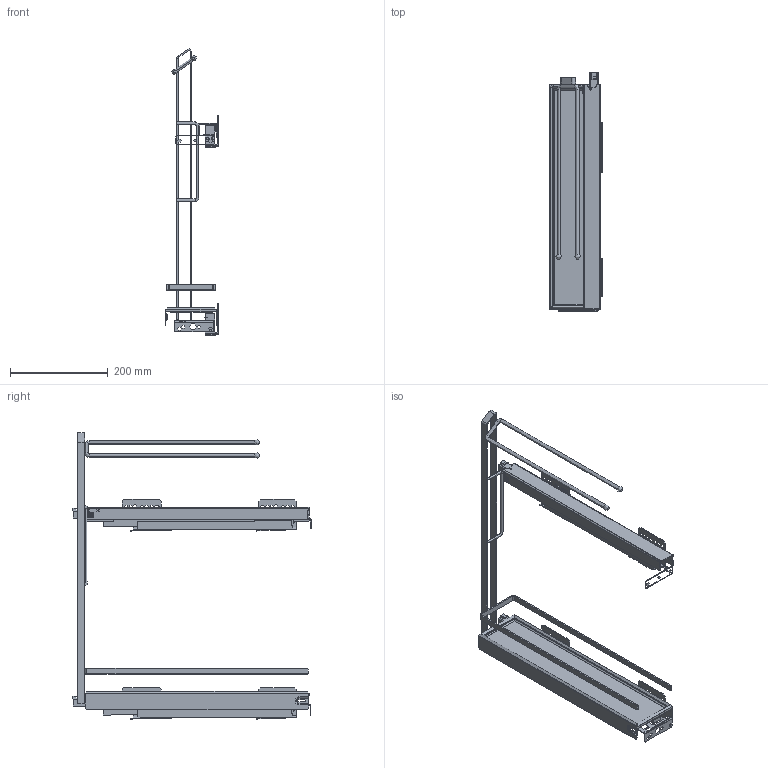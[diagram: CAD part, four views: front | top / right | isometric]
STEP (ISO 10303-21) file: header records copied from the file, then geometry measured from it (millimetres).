
FILE_DESCRIPTION(('STEP AP242'),'1');
FILE_NAME('OPO_53.110.66_volu_3d.stp','2025-11-08T20:25:37',(' '),(' '),'Spatial InterOp 3D',' ',' ');
FILE_SCHEMA(('AP242_MANAGED_MODEL_BASED_3D_ENGINEERING_MIM_LF {1 0 10303 442 1 1 4}'));
Length unit declared in the file: millimetre
Products named in the file (1): 1
Bounding box: 108.2 x 485.99 x 584.29 mm (x, y, z)
Topology: 7 solids, 46 shells, 918 faces, 2654 edges, 1781 vertices
Faces by surface type: plane 502, cylinder 347, torus 35, bspline 26, sphere 4, cone 3, extrusion 1
Full cylindrical faces by diameter (mm): 2 x5, 4 x2, 4.5 x1, 5 x1, 6 x2, 7 x2
Entity records: 40458 total; most frequent: CARTESIAN_POINT 8216, DIRECTION 5254, ORIENTED_EDGE 4994, EDGE_CURVE 2688, VERTEX_POINT 1785, VECTOR 1752, AXIS2_PLACEMENT_3D 1751, LINE 1751
